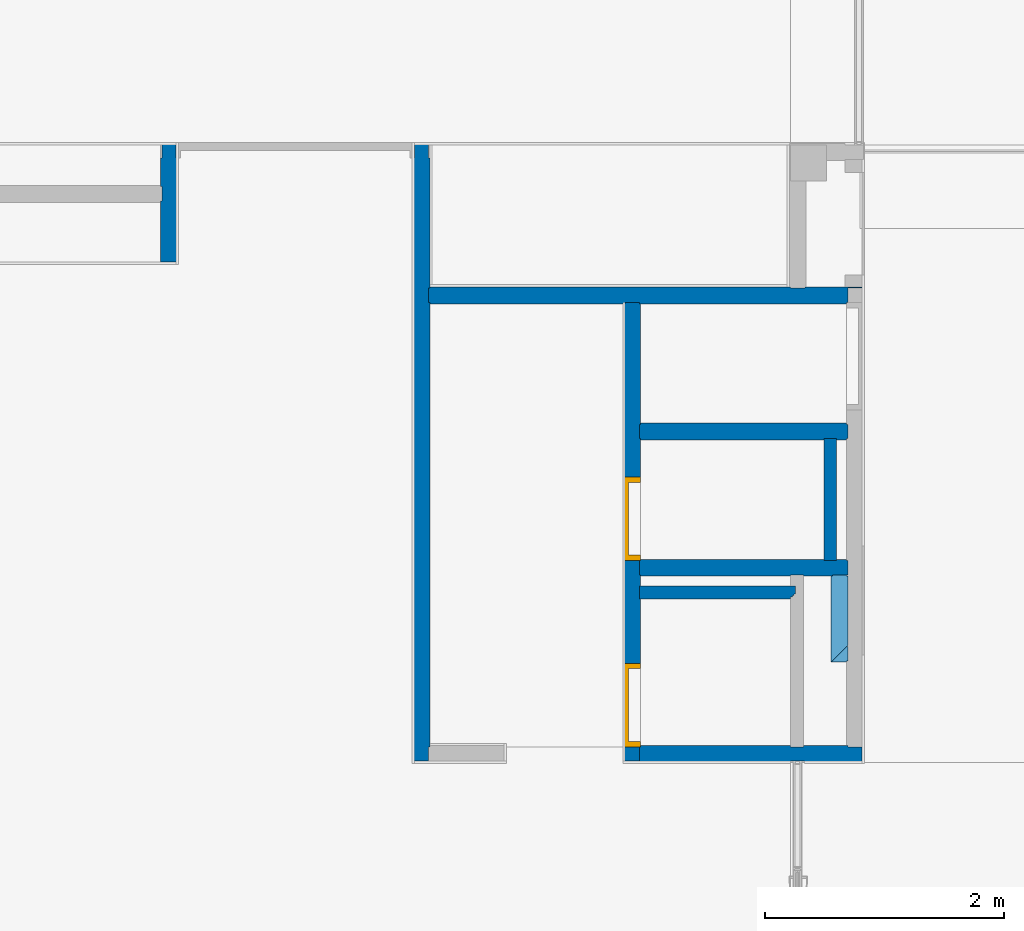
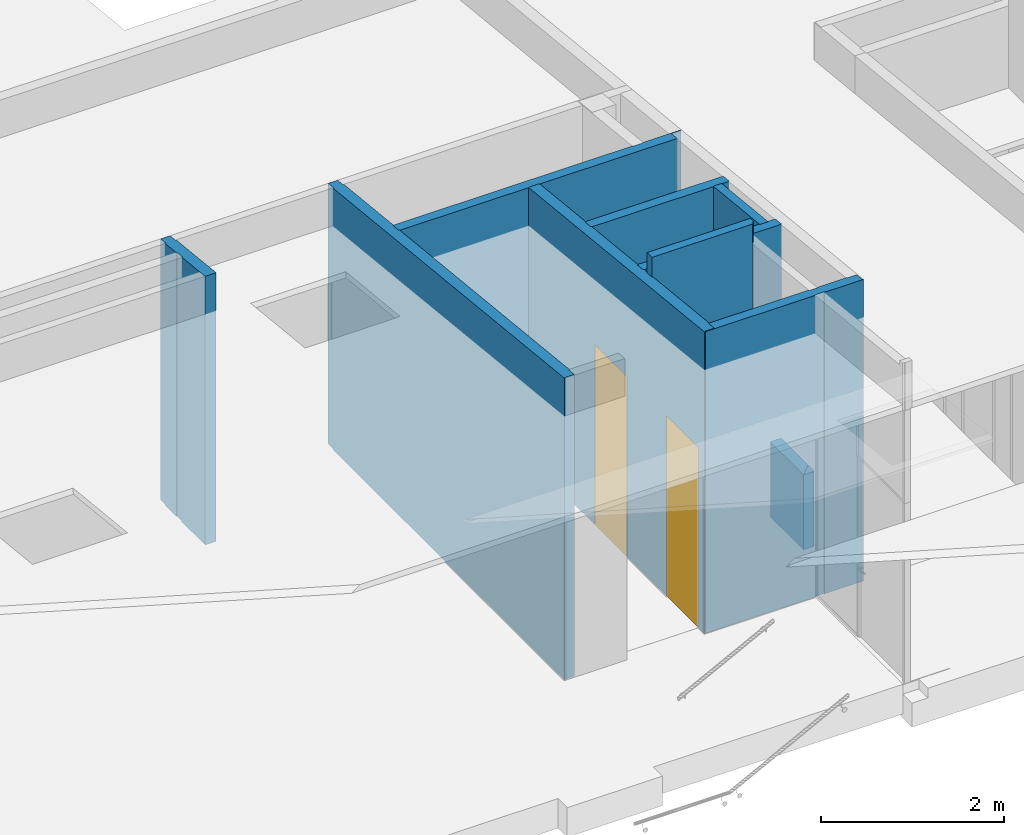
# One storey, part 26 of 43: 11 walls, 2 doors, 2 openings.
"""IFC2X3 building model written with IfcOpenShell, lengths in millimetres."""

import ifcopenshell
import ifcopenshell.guid

model = None  # the IFC model being written
_history = None  # IfcOwnerHistory: only IFC2X3 demands one
_inside = {}  # id of a spatial element -> (the spatial element, [elements in it])
_under = {}  # id of a project, library or spatial element -> (it, [spatial elements below it])
_declared = {}  # id of a project -> (the project, [libraries it declares])
_typed = {}  # id of a type object -> (the type object, [elements of that type])
_made_of = {}  # id of a material, layer set ... -> (it, [elements and type objects made of it])


def new_model(schema):
    """Start an empty IFC model of exactly this schema.

    Asked for "IFC4X3", IfcOpenShell would pick the latest addendum, in which some entities
    have other attributes; the version numbers below select the first issue.
    IFC2X3 requires an IfcOwnerHistory on every rooted entity: one is made here for all.
    """
    global model, _history
    if schema == "IFC4X3":
        model = ifcopenshell.file(schema_version=(4, 3, 0, 0))
    else:
        model = ifcopenshell.file(schema=schema)
    _inside.clear()
    _under.clear()
    _declared.clear()
    _typed.clear()
    _made_of.clear()
    _history = None
    if model.schema == "IFC2X3":
        org = make("IfcOrganization", Name="unknown")
        user = make(
            "IfcPersonAndOrganization",
            ThePerson=make("IfcPerson", FamilyName="unknown"),
            TheOrganization=org,
        )
        app = make(
            "IfcApplication",
            ApplicationDeveloper=org,
            Version="unknown",
            ApplicationFullName="unknown",
            ApplicationIdentifier="unknown",
        )
        _history = make(
            "IfcOwnerHistory",
            OwningUser=user,
            OwningApplication=app,
            ChangeAction="ADDED",
            CreationDate=0,
        )
    return model


def make(cls, **values):
    """One entity of the class cls with the attributes given. An attribute that is None is left unset."""
    return model.create_entity(
        cls, **{name: value for name, value in values.items() if value is not None}
    )


def entity(cls, *values):
    """Any entity or typed value of the class cls, its attributes in the order of the schema. None: left unset."""
    e = model.create_entity(cls)
    for i, value in enumerate(values):
        if value is not None:
            e[i] = value
    return e


def rooted(cls, **values):
    """An entity with a GlobalId (a new one), such as an element, a storey or a relation."""
    return make(cls, GlobalId=ifcopenshell.guid.new(), OwnerHistory=_history, **values)


def si_unit(unit_type, name, prefix=None):
    """IfcSIUnit, for example si_unit("LENGTHUNIT", "METRE", prefix="MILLI")."""
    return make("IfcSIUnit", UnitType=unit_type, Prefix=prefix, Name=name)


def converted_unit(unit_type, name, factor, base, dimensions=None, offset=None):
    """IfcConversionBasedUnit, such as the inch: factor (a typed value) times the base unit."""
    return make(
        "IfcConversionBasedUnit"
        if offset is None
        else "IfcConversionBasedUnitWithOffset",
        ConversionOffset=offset,
        Dimensions=None
        if dimensions is None
        else entity("IfcDimensionalExponents", *dimensions),
        UnitType=unit_type,
        Name=name,
        ConversionFactor=make(
            "IfcMeasureWithUnit", ValueComponent=factor, UnitComponent=base
        ),
    )


def derived_unit(unit_type, elements):
    """IfcDerivedUnit: a product of units, each with its exponent."""
    return make(
        "IfcDerivedUnit",
        Elements=[
            make("IfcDerivedUnitElement", Unit=unit, Exponent=power)
            for unit, power in elements
        ],
        UnitType=unit_type,
    )


def money_unit(currency):
    """IfcMonetaryUnit."""
    return make("IfcMonetaryUnit", Currency=currency)


def assignment(units):
    """IfcUnitAssignment: the units of a project."""
    return None if units is None else make("IfcUnitAssignment", Units=units)


def point(xyz):
    """IfcCartesianPoint."""
    return None if xyz is None else make("IfcCartesianPoint", Coordinates=xyz)


def direction(xyz):
    """IfcDirection."""
    return None if xyz is None else make("IfcDirection", DirectionRatios=xyz)


def frame(location, z_axis=None, x_axis=None):
    """IfcAxis2Placement3D, a coordinate frame: its origin and axes. An axis left out is left unset."""
    return make(
        "IfcAxis2Placement3D",
        Location=point(location),
        Axis=direction(z_axis),
        RefDirection=direction(x_axis),
    )


def origin_with_axes():
    """The frame at (0, 0, 0) with the z axis (0, 0, 1) and the x axis (1, 0, 0) written out."""
    return frame((0.0, 0.0, 0.0), z_axis=(0.0, 0.0, 1.0), x_axis=(1.0, 0.0, 0.0))


def place(relative_to, where):
    """IfcLocalPlacement: puts the frame where relative to a parent placement (None: the world)."""
    return make(
        "IfcLocalPlacement", PlacementRelTo=relative_to, RelativePlacement=where
    )


def context(
    kind, dimensions, precision=None, world=None, true_north=None, identifier=None
):
    """IfcGeometricRepresentationContext, for example the 3D "Model" context."""
    return make(
        "IfcGeometricRepresentationContext",
        ContextIdentifier=identifier,
        ContextType=kind,
        CoordinateSpaceDimension=dimensions,
        Precision=precision,
        WorldCoordinateSystem=world,
        TrueNorth=true_north,
    )


def subcontext(parent, identifier, kind, view, scale=None):
    """IfcGeometricRepresentationSubContext, for example "Body" below "Model"."""
    return make(
        "IfcGeometricRepresentationSubContext",
        ContextIdentifier=identifier,
        ContextType=kind,
        ParentContext=parent,
        TargetScale=scale,
        TargetView=view,
    )


def project(units=None, contexts=None):
    """IfcProject with its units and contexts."""
    return rooted(
        "IfcProject",
        Name="project",
        RepresentationContexts=contexts,
        UnitsInContext=assignment(units),
    )


def spatial(cls, under=None, at=None, **own):
    """A site, building, storey or space (cls), placed at a placement, below another one or the project."""
    s = rooted(cls, ObjectPlacement=at, **own)
    if under is not None:
        _under.setdefault(under.id(), (under, []))[1].append(s)
    return s


def faces_of(points, faces, orient=None, outer=None):
    """IfcFace entities. A face is a list of loops; a loop is a list of indices into points, from 0.

    orient and outer hold one flag for each loop. By default every Orientation is true, the
    first loop of a face is its IfcFaceOuterBound and the others are IfcFaceBound.
    """
    made = []
    for i, loops in enumerate(faces):
        bounds = []
        for j, loop in enumerate(loops):
            is_outer = j == 0 if outer is None else outer[i][j]
            bounds.append(
                make(
                    "IfcFaceOuterBound" if is_outer else "IfcFaceBound",
                    Bound=make("IfcPolyLoop", Polygon=[points[k] for k in loop]),
                    Orientation=True if orient is None else orient[i][j],
                )
            )
        made.append(make("IfcFace", Bounds=bounds))
    return made


def faceted_brep(points, faces, orient=None, outer=None, voids=None):
    """IfcFacetedBrep: a solid bounded by flat faces; with voids (closed shells), ...WithVoids."""
    shared = [point(p) for p in points]
    hull = make("IfcClosedShell", CfsFaces=faces_of(shared, faces, orient, outer))
    if voids is None:
        return make("IfcFacetedBrep", Outer=hull)
    return make(
        "IfcFacetedBrepWithVoids",
        Outer=hull,
        Voids=[
            make(cls, CfsFaces=faces_of(shared, fs, o, b)) for cls, fs, o, b in voids
        ],
    )


def shape(context_of_items, identifier, shape_type, items):
    """IfcShapeRepresentation: the items that make up one representation, for example the "Body"."""
    return make(
        "IfcShapeRepresentation",
        ContextOfItems=context_of_items,
        RepresentationIdentifier=identifier,
        RepresentationType=shape_type,
        Items=items,
    )


def material(Name=None, Category=None):
    """IfcMaterial."""
    return make("IfcMaterial", Name=Name, Category=Category)


def material_list(materials):
    """IfcMaterialList."""
    return make("IfcMaterialList", Materials=materials)


def made_of(thing, what):
    """Note that an element or type object is made of a material, layer set ...; save() writes the relation."""
    if what is not None:
        _made_of.setdefault(what.id(), (what, []))[1].append(thing)
    return thing


def type_object(cls, material=None, **own):
    """A type object (cls), such as IfcWallType, which elements share."""
    return made_of(rooted(cls, **own), material)


def element(
    cls,
    number,
    at=None,
    inside=None,
    cuts=None,
    type_object=None,
    material=None,
    context=None,
    identifier="Body",
    shape_type=None,
    held_by="IfcProductDefinitionShape",
    body=None,
    shapes=None,
    **own,
):
    """One element of the class cls, such as IfcWall. Its Tag is "e" and its number.

    at: its placement. inside: the storey or other place that contains it. cuts: it is an
    opening in that element (IfcRelVoidsElement). A single representation is given by context,
    identifier, shape_type and body (its items); several are given by shapes. held_by: the class
    of the entity that holds the representations. save() writes the other relations.
    """
    e = rooted(cls, Tag="e%d" % number, ObjectPlacement=at, **own)
    if body is not None:
        shapes = [shape(context, identifier, shape_type, body)]
    if shapes is not None:
        e.Representation = make(held_by, Representations=shapes)
    if inside is not None:
        _inside.setdefault(inside.id(), (inside, []))[1].append(e)
    if cuts is not None:
        rooted(
            "IfcRelVoidsElement", RelatingBuildingElement=cuts, RelatedOpeningElement=e
        )
    if type_object is not None:
        _typed.setdefault(type_object.id(), (type_object, []))[1].append(e)
    return made_of(e, material)


def fill(opening, filler):
    """IfcRelFillsElement: the door or window that sits in an opening."""
    return rooted(
        "IfcRelFillsElement",
        RelatingOpeningElement=opening,
        RelatedBuildingElement=filler,
    )


def aggregate(whole, parts):
    """IfcRelAggregates: a whole, such as a stair, and the parts it consists of."""
    return rooted("IfcRelAggregates", RelatingObject=whole, RelatedObjects=parts)


def save(model, path):
    """Write the relations noted so far, then the file.

    IfcRelAggregates (storeys below a building ...), IfcRelContainedInSpatialStructure (elements
    in a storey), IfcRelDefinesByType, IfcRelAssociatesMaterial and IfcRelDeclares: one each for
    every whole, place, type object, material and project.
    """
    for whole, parts in _under.values():
        aggregate(whole, parts)
    for where, things in _inside.values():
        rooted(
            "IfcRelContainedInSpatialStructure",
            RelatedElements=things,
            RelatingStructure=where,
        )
    for kind, things in _typed.values():
        rooted("IfcRelDefinesByType", RelatedObjects=things, RelatingType=kind)
    for what, things in _made_of.values():
        rooted("IfcRelAssociatesMaterial", RelatedObjects=things, RelatingMaterial=what)
    for by, libraries in _declared.values():
        rooted("IfcRelDeclares", RelatingContext=by, RelatedDefinitions=libraries)
    model.write(path)


model = new_model("IFC2X3")

# Units and contexts
model_context = context("Model", 3, precision=0.01, world=origin_with_axes(), true_north=direction((0.0, 1.0)))
body_context = subcontext(model_context, "Body", "Model", "MODEL_VIEW")
ifc_project = project(units=[si_unit("LENGTHUNIT", "METRE", prefix="MILLI"), si_unit("AREAUNIT", "SQUARE_METRE"), si_unit("VOLUMEUNIT", "CUBIC_METRE"), converted_unit("PLANEANGLEUNIT", "DEGREE", entity("IfcPlaneAngleMeasure", 0.0174532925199), si_unit("PLANEANGLEUNIT", "RADIAN"), dimensions=[0, 0, 0, 0, 0, 0, 0]), si_unit("SOLIDANGLEUNIT", "STERADIAN"), money_unit("EUR"), converted_unit("TIMEUNIT", "Year", entity("IfcTimeMeasure", 31556926.0), si_unit("TIMEUNIT", "SECOND"), dimensions=[0, 0, 1, 0, 0, 0, 0]), si_unit("MASSUNIT", "GRAM", prefix="KILO"), si_unit("THERMODYNAMICTEMPERATUREUNIT", "DEGREE_CELSIUS"), si_unit("LUMINOUSINTENSITYUNIT", "LUMEN"), si_unit("ENERGYUNIT", "JOULE", prefix="MEGA"), derived_unit("THERMALCONDUCTANCEUNIT", [(si_unit("POWERUNIT", "WATT"), 1), (si_unit("LENGTHUNIT", "METRE"), -1), (si_unit("THERMODYNAMICTEMPERATUREUNIT", "KELVIN"), -1)]), derived_unit("SPECIFICHEATCAPACITYUNIT", [(si_unit("ENERGYUNIT", "JOULE"), 1), (si_unit("MASSUNIT", "GRAM", prefix="KILO"), -1), (si_unit("THERMODYNAMICTEMPERATUREUNIT", "KELVIN"), -1)]), derived_unit("MASSDENSITYUNIT", [(si_unit("MASSUNIT", "GRAM", prefix="KILO"), 1), (si_unit("VOLUMEUNIT", "CUBIC_METRE"), -1)])], contexts=[model_context])

# Site, building, storey
site_placement = place(None, origin_with_axes())
site = spatial("IfcSite", under=ifc_project, at=site_placement, Name="L.Koidula tn 11b", CompositionType="ELEMENT")
building_placement = place(site_placement, origin_with_axes())
building = spatial("IfcBuilding", under=site, at=building_placement, Name="Rakvere Riigigümnaasium", CompositionType="ELEMENT")
storey_placement = place(building_placement, frame((0.0, 0.0, 6665.0), z_axis=(0.0, 0.0, 1.0), x_axis=(1.0, 0.0, 0.0)))
storey = spatial("IfcBuildingStorey", under=building, at=storey_placement, Name="3.korrus +6,66", CompositionType="ELEMENT", Elevation=6665.0)

# Wall, openings, doors
ifc_material_1 = material(Name="Krohv")
ifc_material_2 = material(Name="Silikaat plokk")
ifc_material_list_1 = material_list([ifc_material_1, ifc_material_2, ifc_material_1])
wall_type_1 = type_object("IfcWallType", Name="SS-05 140", PredefinedType="NOTDEFINED")
wall_1_placement = place(storey_placement, frame((45735.0034893, 23200.4555472, 0.0), z_axis=(0.0, 0.0, 1.0), x_axis=(0.0, -1.0, 0.0)))
wall_1 = element("IfcWall", 1, at=wall_1_placement, inside=storey, type_object=wall_type_1, material=ifc_material_list_1, Name="Sisesein", context=body_context, shape_type="Brep", body=[
    faceted_brep([(2600.51583998, 0.0, 0.0), (2600.51583998, 6.80496015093e-06, 3879.22136701), (2600.51583998, 10.0000035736, 3879.22121521), (2600.51583998, 10.0, 0.0), (3840.01583998, 0.0, 2400.0), (3840.01583998, 7.20982029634e-06, 4009.49806526), (3140.01583998, 5.24521368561e-05, 0.0), (3140.01583998, 7.26639370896e-06, 2400.0), (3840.01583998, 10.000003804, 4009.49791347), (3840.01583998, 10.0, 0.0), (3830.01583521, 10.0000047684, 0.0), (3830.01583521, 10.0000047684, 2400.0), (3140.01583998, 10.0000047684, 2400.0), (3140.01583998, 10.0000047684, 0.0), (3840.01583998, 0.0, 0.0)], [[[0, 1, 2, 3]], [[4, 5, 1, 0, 6, 7]], [[5, 8, 2, 1]], [[3, 2, 8, 9, 10, 11, 12, 13]], [[0, 3, 13, 6]], [[9, 8, 5, 4, 14]], [[7, 6, 13, 12]], [[4, 7, 12, 11]], [[10, 9, 14]], [[14, 4, 11, 10]]]),
    faceted_brep([(2400.01583998, 0.0, 0.0), (2400.01583998, 7.14433667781e-06, 3858.14796806), (2400.01583998, 10.0000037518, 3858.14781626), (2400.01583998, 10.0, 0.0), (2494.01583998, 0.0, 0.0), (2494.01583998, 6.78532074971e-06, 3868.02776607), (2494.01583998, 10.0000035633, 3868.02761427), (2494.01583998, 10.0, 0.0)], [[[0, 1, 2, 3]], [[4, 5, 1, 0]], [[5, 6, 2, 1]], [[3, 2, 6, 7]], [[4, 0, 3, 7]], [[7, 6, 5, 4]]]),
    faceted_brep([(1260.00000742, 0.0, 0.0), (1260.00000742, 7.23822779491e-06, 3738.32747704), (1260.00000742, 10.0000038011, 3738.32732524), (1260.00000742, 10.0, 0.0), (2280.01583998, 4.44421033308e-06, 2400.0), (2280.01583998, 7.12098113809e-06, 3845.53545996), (1580.01583998, 0.0, 0.0), (1580.01583998, 7.26639370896e-06, 2400.0), (2280.01583998, 10.0000037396, 3845.53530816), (2280.01583998, 10.0000023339, 2400.0), (1580.01583998, 10.0, 2400.0), (1580.01583998, 10.0, 0.0)], [[[0, 1, 2, 3]], [[4, 5, 1, 0, 6, 7]], [[5, 8, 2, 1]], [[3, 2, 8, 9, 10, 11]], [[6, 0, 3, 11]], [[9, 8, 5, 4]], [[10, 7, 6, 11]], [[9, 4, 7, 10]]]),
    faceted_brep([(130.0, 0.0, 0.0), (130.0, 7.10841874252e-06, 3619.55969164), (130.0, 10.000003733, 3619.55953985), (130.0, 10.0, 0.0), (1140.00000742, 0.0, 0.0), (1140.00000742, 7.21380644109e-06, 3725.71496894), (1140.00000742, 10.0000037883, 3725.71481714), (1140.00000742, 10.0, 0.0)], [[[0, 1, 2, 3]], [[4, 5, 1, 0]], [[5, 6, 2, 1]], [[3, 2, 6, 7]], [[3, 7, 4, 0]], [[7, 6, 5, 4]]]),
    faceted_brep([(120.0, -120.0, 0.0), (120.0, -120.000003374, 3618.51047085), (120.0, 7.10635106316e-06, 3618.5086493), (120.0, 0.0, 0.0), (3960.01583998, -120.0, 0.0), (3960.01583998, -120.000001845, 4022.11239491), (1580.01583998, -120.0, 0.0), (1580.01583998, -120.000027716, 2400.0), (2280.01583998, -120.000027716, 2400.0), (2280.01583998, -120.0, 0.0), (3140.01583998, -120.000047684, 0.0), (3140.01583998, -120.000027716, 2400.0), (3840.01583998, -120.000027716, 2400.0), (3840.01583998, -120.000047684, 0.0), (3960.01583998, 3.88646981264e-06, 4022.11057336), (3960.01583998, 0.0, 0.0), (3840.01583998, 0.0, 0.0), (3840.01583998, 0.0, 2400.0), (3140.01583998, 0.0, 2400.0), (3140.01583998, 5.24521368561e-05, 0.0), (2280.01583998, 0.0, 0.0), (2280.01583998, 0.0, 2400.0), (1580.01583998, 0.0, 2400.0), (1580.01583998, 0.0, 0.0)], [[[0, 1, 2, 3]], [[4, 5, 1, 0, 6, 7, 8, 9, 10, 11, 12, 13]], [[5, 14, 2, 1]], [[3, 2, 14, 15, 16, 17, 18, 19, 20, 21, 22, 23]], [[6, 0, 3, 23]], [[15, 14, 5, 4]], [[22, 7, 6, 23]], [[21, 8, 7, 22]], [[20, 9, 8, 21]], [[9, 20, 19, 10]], [[11, 10, 19, 18]], [[12, 11, 18, 17]], [[12, 17, 16, 13]], [[15, 4, 13, 16]]]),
    faceted_brep([(130.0, -130.0, 0.0), (130.0, -130.0, 3619.56166499), (130.0, -120.000003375, 3619.56151319), (130.0, -120.0, 0.0), (3970.01584032, -130.0, 4022.12780187), (3960.16098323, -130.0, 4022.12780187), (1580.01583998, -130.0, 0.0), (1580.01583998, -130.0, 2400.0), (2280.01583998, -130.0, 2400.0), (2280.01583998, -130.0, 0.0), (3140.01583998, -130.0, 0.0), (3140.01583998, -130.0, 2400.0), (3840.01583998, -130.0, 2400.0), (3840.01583998, -130.0, 0.0), (3970.01584032, -130.0, 0.0), (3960.16242746, -120.00000345, 4022.12780187), (3970.01584032, -120.00000345, 4022.12780187), (3970.01584032, -120.0, 0.0), (3840.01583998, -120.000047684, 0.0), (3840.01583998, -120.0, 2400.0), (3140.01583998, -120.0, 2400.0), (3140.01583998, -120.000047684, 0.0), (2280.01583998, -120.0, 0.0), (2280.01583998, -120.0, 2400.0), (1580.01583998, -120.0, 2400.0), (1580.01583998, -120.0, 0.0)], [[[0, 1, 2, 3]], [[4, 5, 1, 0, 6, 7, 8, 9, 10, 11, 12, 13, 14]], [[5, 15, 2, 1]], [[3, 2, 15, 16, 17, 18, 19, 20, 21, 22, 23, 24, 25]], [[6, 0, 3, 25]], [[16, 15, 5, 4]], [[24, 7, 6, 25]], [[23, 8, 7, 24]], [[22, 9, 8, 23]], [[9, 22, 21, 10]], [[11, 10, 21, 20]], [[12, 11, 20, 19]], [[13, 12, 19, 18]], [[17, 14, 13, 18]], [[16, 4, 14, 17]]]),
])
opening_1_placement = place(wall_1_placement, frame((3490.01583998, 0.0, 0.0), z_axis=(0.0, 0.0, 1.0), x_axis=(1.0, 0.0, 0.0)))
opening_1 = element("IfcOpeningElement", 2, at=opening_1_placement, cuts=wall_1, Name="SU-062", context=body_context, shape_type="Brep", body=[
    faceted_brep([(-350.0, -140.0, 0.0), (-350.0, -140.0, 2400.0), (-350.0, 280.0, 2400.0), (-350.0, 280.0, 0.0), (350.0, -140.0, 0.0), (350.0, -140.0, 2400.0), (350.0, 280.0, 2400.0), (350.0, 280.0, 0.0)], [[[0, 1, 2, 3]], [[0, 4, 5, 1]], [[1, 5, 6, 2]], [[3, 2, 6, 7]], [[4, 0, 3, 7]], [[5, 4, 7, 6]]]),
])
opening_2_placement = place(wall_1_placement, frame((1930.01583998, 0.0, 0.0), z_axis=(0.0, 0.0, 1.0), x_axis=(1.0, 0.0, 0.0)))
opening_2 = element("IfcOpeningElement", 3, at=opening_2_placement, cuts=wall_1, Name="SU-063", context=body_context, shape_type="Brep", body=[
    faceted_brep([(-350.0, -140.0, 0.0), (-350.0, -140.0, 2400.0), (-350.0, 280.0, 2400.0), (-350.0, 280.0, 0.0), (350.0, -140.0, 0.0), (350.0, -140.0, 2400.0), (350.0, 280.0, 2400.0), (350.0, 280.0, 0.0)], [[[0, 1, 2, 3]], [[0, 4, 5, 1]], [[1, 5, 6, 2]], [[3, 2, 6, 7]], [[4, 0, 3, 7]], [[5, 4, 7, 6]]]),
])
door_style = type_object("IfcDoorStyle", Name="Door 23", ConstructionType="NOTDEFINED", OperationType="SINGLE_SWING_RIGHT", ParameterTakesPrecedence=False, Sizeable=False)
door_1_placement = place(opening_1_placement, frame((350.0, 0.0, 0.0), z_axis=(0.0, 0.0, 1.0), x_axis=(-1.0, 0.0, 0.0)))
door_1 = element("IfcDoor", 4, at=door_1_placement, inside=storey, type_object=door_style, Name="SU-062", ObjectType="DOOR", OverallHeight=2400.0, OverallWidth=700.0, context=body_context, shape_type="Brep", body=[
    faceted_brep([(45.0, -10.0, 2355.0), (45.0, -10.0, 0.0), (45.0, 90.0, 0.0), (45.0, 90.0, 2355.0), (0.0, -10.0, 2355.0), (0.0, -10.0, 0.0), (0.0, 130.0, 0.0), (33.0, 130.0, 0.0), (33.0, 90.0, 0.0), (33.0, 90.0, 2355.0), (33.0, 130.0, 2355.0), (0.0, 130.0, 2355.0)], [[[0, 1, 2, 3]], [[4, 5, 1, 0]], [[6, 7, 8, 2, 1, 5]], [[2, 8, 9, 3]], [[0, 3, 9, 10, 11, 4]], [[4, 11, 6, 5]], [[6, 11, 10, 7]], [[8, 7, 10, 9]]]),
    faceted_brep([(700.0, 130.0, 2355.0), (667.0, 130.0, 2355.0), (667.0, 90.0, 2355.0), (655.0, 90.0, 2355.0), (655.0, -10.0, 2355.0), (700.0, -10.0, 2355.0), (700.0, 130.0, 0.0), (667.0, 130.0, 0.0), (667.0, 90.0, 0.0), (655.0, 90.0, 0.0), (655.0, -10.0, 0.0), (700.0, -10.0, 0.0)], [[[0, 1, 2, 3, 4, 5]], [[0, 6, 7, 1]], [[7, 8, 2, 1]], [[8, 9, 3, 2]], [[10, 4, 3, 9]], [[10, 11, 5, 4]], [[11, 6, 0, 5]], [[10, 9, 8, 7, 6, 11]]]),
    faceted_brep([(667.0, 130.0, 2355.0), (667.0, 130.0, 2367.0), (33.0, 130.0, 2367.0), (33.0, 130.0, 2355.0), (0.0, 130.0, 2355.0), (0.0, 130.0, 2400.0), (700.0, 130.0, 2400.0), (700.0, 130.0, 2355.0), (667.0, 90.0, 2355.0), (667.0, 90.0, 2367.0), (33.0, 90.0, 2367.0), (33.0, 90.0, 2355.0), (45.0, 90.0, 2355.0), (45.0, -10.0, 2355.0), (0.0, -10.0, 2355.0), (0.0, -10.0, 2400.0), (700.0, -10.0, 2400.0), (700.0, -10.0, 2355.0), (655.0, -10.0, 2355.0), (655.0, 90.0, 2355.0)], [[[0, 1, 2, 3, 4, 5, 6, 7]], [[8, 9, 1, 0]], [[9, 10, 2, 1]], [[10, 11, 3, 2]], [[4, 3, 11, 12, 13, 14]], [[15, 5, 4, 14]], [[16, 6, 5, 15]], [[17, 7, 6, 16]], [[18, 19, 8, 0, 7, 17]], [[10, 9, 8, 19, 12, 11]], [[18, 13, 12, 19]], [[14, 13, 18, 17, 16, 15]]]),
    faceted_brep([(33.0, 90.0, 0.0), (33.0, 130.0, 0.0), (667.0, 130.0, 0.0), (667.0, 90.0, 0.0), (33.0, 90.0, 2367.0), (33.0, 130.0, 2367.0), (667.0, 130.0, 2367.0), (667.0, 90.0, 2367.0)], [[[0, 1, 2, 3]], [[4, 5, 1, 0]], [[5, 6, 2, 1]], [[3, 2, 6, 7]], [[4, 0, 3, 7]], [[7, 6, 5, 4]]]),
])
fill(opening_1, door_1)
door_2_placement = place(opening_2_placement, frame((350.0, 0.0, 0.0), z_axis=(0.0, 0.0, 1.0), x_axis=(-1.0, 0.0, 0.0)))
door_2 = element("IfcDoor", 5, at=door_2_placement, inside=storey, type_object=door_style, Name="SU-063", ObjectType="DOOR", OverallHeight=2400.0, OverallWidth=700.0, context=body_context, shape_type="Brep", body=[
    faceted_brep([(45.0, -10.0, 2355.0), (45.0, -10.0, 0.0), (45.0, 90.0, 0.0), (45.0, 90.0, 2355.0), (0.0, -10.0, 2355.0), (0.0, -10.0, 0.0), (0.0, 130.0, 0.0), (33.0, 130.0, 0.0), (33.0, 90.0, 0.0), (33.0, 90.0, 2355.0), (33.0, 130.0, 2355.0), (0.0, 130.0, 2355.0)], [[[0, 1, 2, 3]], [[4, 5, 1, 0]], [[6, 7, 8, 2, 1, 5]], [[2, 8, 9, 3]], [[0, 3, 9, 10, 11, 4]], [[4, 11, 6, 5]], [[6, 11, 10, 7]], [[8, 7, 10, 9]]]),
    faceted_brep([(700.0, 130.0, 2355.0), (667.0, 130.0, 2355.0), (667.0, 90.0, 2355.0), (655.0, 90.0, 2355.0), (655.0, -10.0, 2355.0), (700.0, -10.0, 2355.0), (700.0, 130.0, 0.0), (667.0, 130.0, 0.0), (667.0, 90.0, 0.0), (655.0, 90.0, 0.0), (655.0, -10.0, 0.0), (700.0, -10.0, 0.0)], [[[0, 1, 2, 3, 4, 5]], [[0, 6, 7, 1]], [[7, 8, 2, 1]], [[8, 9, 3, 2]], [[10, 4, 3, 9]], [[10, 11, 5, 4]], [[11, 6, 0, 5]], [[10, 9, 8, 7, 6, 11]]]),
    faceted_brep([(667.0, 130.0, 2355.0), (667.0, 130.0, 2367.0), (33.0, 130.0, 2367.0), (33.0, 130.0, 2355.0), (0.0, 130.0, 2355.0), (0.0, 130.0, 2400.0), (700.0, 130.0, 2400.0), (700.0, 130.0, 2355.0), (667.0, 90.0, 2355.0), (667.0, 90.0, 2367.0), (33.0, 90.0, 2367.0), (33.0, 90.0, 2355.0), (45.0, 90.0, 2355.0), (45.0, -10.0, 2355.0), (0.0, -10.0, 2355.0), (0.0, -10.0, 2400.0), (700.0, -10.0, 2400.0), (700.0, -10.0, 2355.0), (655.0, -10.0, 2355.0), (655.0, 90.0, 2355.0)], [[[0, 1, 2, 3, 4, 5, 6, 7]], [[8, 9, 1, 0]], [[9, 10, 2, 1]], [[10, 11, 3, 2]], [[4, 3, 11, 12, 13, 14]], [[15, 5, 4, 14]], [[16, 6, 5, 15]], [[17, 7, 6, 16]], [[18, 19, 8, 0, 7, 17]], [[10, 9, 8, 19, 12, 11]], [[18, 13, 12, 19]], [[14, 13, 18, 17, 16, 15]]]),
    faceted_brep([(33.0, 90.0, 0.0), (33.0, 130.0, 0.0), (667.0, 130.0, 0.0), (667.0, 90.0, 0.0), (33.0, 90.0, 2367.0), (33.0, 130.0, 2367.0), (667.0, 130.0, 2367.0), (667.0, 90.0, 2367.0)], [[[0, 1, 2, 3]], [[4, 5, 1, 0]], [[5, 6, 2, 1]], [[3, 2, 6, 7]], [[4, 0, 3, 7]], [[7, 6, 5, 4]]]),
])
fill(opening_2, door_2)

# Walls
wall_2_placement = place(storey_placement, frame((47599.9999955, 20800.4397072, 0.0), z_axis=(0.0, 0.0, 1.0), x_axis=(-1.0, 0.0, 0.0)))
element("IfcWall", 6, at=wall_2_placement, inside=storey, type_object=wall_type_1, material=ifc_material_list_1, Name="Sisesein", context=body_context, shape_type="Brep", body=[
    faceted_brep([(493.49860243, 0.0, 0.0), (493.49860243, 0.0, 3858.12714933), (130.0, 0.0, 3858.12163158), (130.0, 0.0, 1000.0), (250.0, 0.0, 1000.0), (250.0, 0.0, 0.0), (493.49860243, 10.0, 0.0), (493.49860243, 10.0, 3859.17819167), (130.0, 10.0, 3859.17267392), (130.0, 10.0, 1000.0), (250.0, 10.0, 1000.0), (250.0, 10.0, 0.0)], [[[0, 1, 2, 3, 4, 5]], [[6, 7, 1, 0]], [[7, 8, 2, 1]], [[3, 2, 8, 9]], [[3, 9, 10, 4]], [[4, 10, 11, 5]], [[11, 6, 0, 5]], [[9, 8, 7, 6, 11, 10]]]),
    faceted_brep([(1854.99650622, 0.0, 0.0), (1854.99650622, 0.0, 3858.14781626), (599.99860243, 0.0, 3858.12876595), (599.99860243, 0.0, 0.0), (1854.99650622, 10.0, 0.0), (1854.99650622, 10.0, 3859.1988586), (599.99860243, 10.0, 3859.17980829), (599.99860243, 10.0, 0.0)], [[[0, 1, 2, 3]], [[4, 5, 1, 0]], [[5, 6, 2, 1]], [[3, 2, 6, 7]], [[3, 7, 4, 0]], [[7, 6, 5, 4]]]),
    faceted_brep([(1864.99650622, -120.0, 0.0), (1864.99650622, -120.0, 3845.53545996), (120.0, -120.0, 3845.50897168), (120.0, -120.0, 0.0), (1864.99650622, 0.0, 0.0), (1864.99650622, 0.0, 3858.14796806), (120.0, 0.0, 3858.12147979), (120.0, 0.0, 0.0)], [[[0, 1, 2, 3]], [[4, 5, 1, 0]], [[5, 6, 2, 1]], [[3, 2, 6, 7]], [[3, 7, 4, 0]], [[7, 6, 5, 4]]]),
    faceted_brep([(1854.99650622, -130.0, 0.0), (1854.99650622, -130.0, 3844.48426582), (320.5, -130.0, 3844.46097284), (320.5, -130.0, 0.0), (1854.99650622, -120.0, 0.0), (1854.99650622, -120.0, 3845.53530816), (320.5, -120.0, 3845.51201519), (320.5, -120.0, 0.0)], [[[0, 1, 2, 3]], [[4, 5, 1, 0]], [[5, 6, 2, 1]], [[3, 2, 6, 7]], [[3, 7, 4, 0]], [[7, 6, 5, 4]]]),
    faceted_brep([(214.0, -130.0, 0.0), (214.0, -130.0, 3844.45935622), (130.0, -130.0, 3844.45808114), (130.0, -130.0, 0.0), (214.0, -120.0, 0.0), (214.0, -120.0, 3845.51039856), (130.0, -120.0, 3845.50912348), (130.0, -120.0, 0.0)], [[[0, 1, 2, 3]], [[4, 5, 1, 0]], [[5, 6, 2, 1]], [[3, 2, 6, 7]], [[3, 7, 4, 0]], [[7, 6, 5, 4]]]),
])
wall_3_placement = place(storey_placement, frame((47599.9999955, 23200.4555472, 0.0), z_axis=(0.0, 0.0, 1.0), x_axis=(-1.0, 0.0, 0.0)))
element("IfcWall", 7, at=wall_3_placement, inside=storey, type_object=wall_type_1, material=ifc_material_list_1, Name="Sisesein", context=body_context, shape_type="Brep", body=[
    faceted_brep([(1864.99650622, 120.0, 3618.5086493), (130.0, 120.0, 3618.48231283), (130.0, 120.0, 0.0), (1864.99650622, 120.0, 0.0), (130.0, 130.0, 3619.53335517), (1864.99650622, 130.0, 3619.55969164), (130.0, 130.0, 0.0), (1864.99650622, 130.0, 0.0)], [[[0, 1, 2, 3]], [[4, 1, 0, 5]], [[1, 4, 6, 2]], [[6, 7, 3, 2]], [[5, 0, 3, 7]], [[4, 5, 7, 6]]]),
    faceted_brep([(3619.99999907, 120.0, 3618.53528948), (1984.99650622, 120.0, 3618.51047085), (1984.99650622, 120.0, 0.0), (3619.99999907, 120.0, 0.0), (1984.99650622, 130.0, 3619.56151319), (3619.99999907, 130.0, 3619.58633182), (1984.99650622, 130.0, 0.0), (3619.99999907, 130.0, 0.0)], [[[0, 1, 2, 3]], [[4, 1, 0, 5]], [[1, 4, 6, 2]], [[7, 3, 2, 6]], [[5, 0, 3, 7]], [[4, 5, 7, 6]]]),
    faceted_brep([(3629.99999907, 0.0, 3605.92293317), (120.0, 0.0, 3605.86965293), (120.0, 0.0, 0.0), (3629.99999907, 0.0, 0.0), (120.0, 120.0, 3618.48216103), (3629.99999907, 120.0, 3618.53544127), (120.0, 120.0, 0.0), (3629.99999907, 120.0, 0.0)], [[[0, 1, 2, 3]], [[4, 1, 0, 5]], [[1, 4, 6, 2]], [[6, 7, 3, 2]], [[5, 0, 3, 7]], [[4, 5, 7, 6]]]),
    faceted_brep([(479.99860243, -10.0, 3604.82407521), (0.0, -10.0, 3604.81678904), (0.0, -10.0, 0.0), (479.99860243, -10.0, 0.0), (0.0, 0.0, 3605.86783138), (479.99860243, 0.0, 3605.87511755), (0.0, 0.0, 0.0), (479.99860243, 0.0, 0.0)], [[[0, 1, 2, 3]], [[4, 1, 0, 5]], [[1, 4, 6, 2]], [[7, 3, 2, 6]], [[5, 0, 3, 7]], [[4, 5, 7, 6]]]),
    faceted_brep([(3619.99999907, -10.0, 3604.87173903), (599.99860243, -10.0, 3604.82589675), (599.99860243, -10.0, 0.0), (3619.99999907, -10.0, 0.0), (599.99860243, 0.0, 3605.8769391), (3619.99999907, 0.0, 3605.92278138), (599.99860243, 0.0, 0.0), (3619.99999907, 0.0, 0.0)], [[[0, 1, 2, 3]], [[4, 1, 0, 5]], [[1, 4, 6, 2]], [[7, 3, 2, 6]], [[5, 0, 3, 7]], [[4, 5, 7, 6]]]),
])
wall_4_placement = place(storey_placement, frame((47599.9999955, 19240.4397072, 0.0), z_axis=(0.0, 0.0, 1.0), x_axis=(-1.0, 0.0, 0.0)))
element("IfcWall", 8, at=wall_4_placement, inside=storey, type_object=wall_type_1, material=ifc_material_list_1, Name="Sisesein", context=body_context, shape_type="Brep", body=[
    faceted_brep([(482.500002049, 0.0, 0.0), (482.500002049, 0.0, 4022.08958768), (-10.0, 0.0, 4022.08211175), (-10.0, 0.0, 0.0), (482.500002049, 10.0, 4022.12780187), (482.500002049, 0.363583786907, 4022.12780187), (482.500002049, 10.0, 0.0), (-10.0, 0.434712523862, 4022.12780187), (-10.0, 10.0, 4022.12780187), (-10.0, 10.0, 0.0)], [[[0, 1, 2, 3]], [[4, 5, 1, 0, 6]], [[5, 7, 2, 1]], [[3, 2, 7, 8, 9]], [[9, 6, 0, 3]], [[8, 7, 5, 4]], [[8, 4, 6, 9]]]),
    faceted_brep([(1984.99650622, 0.0, 0.0), (1984.99650622, 0.0, 4022.11239491), (600.000002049, 0.0, 4022.09137128), (600.000002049, 0.0, 0.0), (1984.99650622, 10.0, 4022.12780187), (1984.99650622, 0.146587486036, 4022.12780187), (1984.99650622, 10.0, 0.0), (600.000002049, 0.346613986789, 4022.12780187), (600.000002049, 10.0, 4022.12780187), (600.000002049, 10.0, 0.0)], [[[0, 1, 2, 3]], [[4, 5, 1, 0, 6]], [[5, 7, 2, 1]], [[3, 2, 7, 8, 9]], [[9, 6, 0, 3]], [[8, 7, 5, 4]], [[8, 4, 6, 9]]]),
    faceted_brep([(1864.99650622, -120.0, 0.0), (1864.99650622, -120.0, 4009.49806526), (0.0, -120.0, 4009.46975544), (0.0, -120.0, 0.0), (1864.99650622, 0.0, 0.0), (1864.99650622, 0.0, 4022.11057336), (0.0, 0.0, 4022.08226354), (0.0, 0.0, 0.0)], [[[0, 1, 2, 3]], [[4, 5, 1, 0]], [[5, 6, 2, 1]], [[3, 2, 6, 7]], [[0, 3, 7, 4]], [[7, 6, 5, 4]]]),
    faceted_brep([(1854.99650622, -130.0, 0.0), (1854.99650622, -130.0, 4008.44687112), (599.998582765, -130.0, 4008.42782081), (599.99860243, -130.0, 0.0), (1854.99650622, -120.0, 0.0), (1854.99650622, -120.0, 4009.49791347), (599.99858276, -120.0, 4009.47886315), (599.99860243, -120.0, 0.0)], [[[0, 1, 2, 3]], [[4, 5, 1, 0]], [[5, 6, 2, 1]], [[3, 2, 6, 7]], [[7, 4, 0, 3]], [[7, 6, 5, 4]]]),
    faceted_brep([(493.49860243, -130.0, 0.0), (493.49860243, -130.0, 4008.42620419), (120.0, -130.0, 4008.42053465), (120.0, -130.0, 0.0), (493.49860243, -120.0, 0.0), (493.49860243, -120.0, 4009.47724653), (120.0, -120.0, 4009.47157699), (120.0, -120.0, 0.0)], [[[0, 1, 2, 3]], [[4, 5, 1, 0]], [[5, 6, 2, 1]], [[3, 2, 6, 7]], [[3, 7, 4, 0]], [[7, 6, 5, 4]]]),
])
wall_5_placement = place(storey_placement, frame((43849.9999965, 19240.4397072, 0.0), z_axis=(0.0, 0.0, 1.0), x_axis=(0.0, 1.0, 0.0)))
element("IfcWall", 9, at=wall_5_placement, inside=storey, type_object=wall_type_1, material=ifc_material_list_1, Name="Sisesein", context=body_context, shape_type="Brep", body=[
    faceted_brep([(5052.51583998, 9.99999999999, 0.0), (5052.51583998, 10.0000140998, 3491.09853068), (5052.51583998, 3.52495277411e-06, 3491.09837889), (5052.51583998, 0.0, 0.0), (0.0, 10.0000038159, 4022.12780187), (0.0, 10.0000038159, 4022.13933867), (-10.0000003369, 10.0, 0.0), (-10.0000003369, 10.0000038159, 4022.12780187), (0.0, 7.26639370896e-06, 4022.13918688), (0.0, 7.26639370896e-06, 4022.12780187), (-10.0000003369, 7.26639370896e-06, 4022.12780187), (-10.0000003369, 0.0, 0.0)], [[[0, 1, 2, 3]], [[4, 5, 1, 0, 6, 7]], [[5, 8, 2, 1]], [[3, 2, 8, 9, 10, 11]], [[11, 6, 0, 3]], [[9, 8, 5, 4]], [[7, 6, 11, 10]], [[10, 9, 4, 7]]]),
    faceted_brep([(5170.01583998, 0.0, 0.0), (5170.01583998, 2.13691464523e-06, 3478.74863137), (5170.01583998, -119.999993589, 3478.74680983), (5170.01583998, -120.0, 0.0), (0.0, 0.0, 0.0), (0.0, 3.88649823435e-06, 4022.13918688), (0.0, -120.000001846, 4022.13736533), (0.0, -120.0, 0.0)], [[[0, 1, 2, 3]], [[4, 5, 1, 0]], [[5, 6, 2, 1]], [[3, 2, 6, 7]], [[0, 3, 7, 4]], [[7, 6, 5, 4]]]),
    faceted_brep([(3840.01583998, -120.0, 0.0), (3840.01583998, -119.999986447, 3618.53544127), (3840.01583998, -130.0, 3618.53528948), (3840.01583998, -130.0, 0.0), (120.0, -120.0, 0.0), (120.0, -119.999986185, 4009.52485723), (120.0, -130.0, 4009.52470544), (120.0, -130.0, 0.0)], [[[0, 1, 2, 3]], [[4, 5, 1, 0]], [[5, 6, 2, 1]], [[3, 2, 6, 7]], [[3, 7, 4, 0]], [[7, 6, 5, 4]]]),
    faceted_brep([(5052.51583998, -120.0, 0.0), (5052.51583998, -119.999989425, 3491.09655734), (5052.51583998, -130.0, 3491.09640555), (5052.51583998, -130.0, 0.0), (3960.01583998, -120.0, 0.0), (3960.01583998, -119.999986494, 3605.92293317), (3960.01583998, -130.0, 3605.92278138), (3960.01583998, -130.0, 0.0)], [[[0, 1, 2, 3]], [[4, 5, 1, 0]], [[5, 6, 2, 1]], [[3, 2, 6, 7]], [[4, 0, 3, 7]], [[7, 6, 5, 4]]]),
])
wall_6_placement = place(storey_placement, frame((45735.0034893, 21940.4555398, 0.0), z_axis=(0.0, 0.0, 1.0), x_axis=(1.0, 0.0, 0.0)))
element("IfcWall", 10, at=wall_6_placement, inside=storey, type_object=wall_type_1, material=ifc_material_list_1, Name="Sisesein", context=body_context, shape_type="Brep", body=[
    faceted_brep([(10.0, 130.0, 0.0), (10.0, 130.0, 3724.6637748), (1734.99650622, 130.0, 3724.63759012), (1734.99650622, 130.0, 0.0), (10.0, 120.0, 0.0), (10.0, 120.0, 3725.71481714), (1734.99650622, 120.0, 3725.68863246), (1734.99650622, 120.0, 0.0)], [[[0, 1, 2, 3]], [[4, 5, 1, 0]], [[5, 6, 2, 1]], [[3, 2, 6, 7]], [[0, 3, 7, 4]], [[7, 6, 5, 4]]]),
    faceted_brep([(0.0, 120.0, 0.0), (0.0, 120.0, 3725.71496894), (1744.99650622, 120.0, 3725.68848066), (1744.99650622, 120.0, 0.0), (0.0, 0.0, 0.0), (0.0, 0.0, 3738.32747704), (1744.99650622, 0.0, 3738.30098876), (1744.99650622, 0.0, 0.0)], [[[0, 1, 2, 3]], [[4, 5, 1, 0]], [[5, 6, 2, 1]], [[3, 2, 6, 7]], [[0, 3, 7, 4]], [[7, 6, 5, 4]]]),
    faceted_brep([(10.0, 0.0, 0.0), (10.0, 0.0, 3738.32732524), (1544.49650622, 0.0, 3738.30403226), (1544.49650622, 0.0, 0.0), (10.0, -10.0, 0.0), (10.0, -10.0, 3739.37836758), (1544.49650622, -10.0, 3739.35507461), (1544.49650622, -10.0, 0.0)], [[[0, 1, 2, 3]], [[4, 5, 1, 0]], [[5, 6, 2, 1]], [[3, 2, 6, 7]], [[0, 3, 7, 4]], [[7, 6, 5, 4]]]),
    faceted_brep([(1650.99650622, 0.0, 0.0), (1650.99650622, 0.0, 3738.30241564), (1734.99650622, 0.0, 3738.30114056), (1734.99650622, 0.0, 0.0), (1650.99650622, -10.0, 0.0), (1650.99650622, -10.0, 3739.35345798), (1734.99650622, -10.0, 3739.3521829), (1734.99650622, -10.0, 0.0)], [[[0, 1, 2, 3]], [[4, 5, 1, 0]], [[5, 6, 2, 1]], [[3, 2, 6, 7]], [[0, 3, 7, 4]], [[7, 6, 5, 4]]]),
])
wall_7_placement = place(storey_placement, frame((41855.0034893, 24410.4555472, 0.0), z_axis=(0.0, 0.0, 1.0), x_axis=(0.0, -1.0, 0.0)))
element("IfcWall", 11, at=wall_7_placement, inside=storey, type_object=wall_type_1, material=ifc_material_list_1, Name="Sisesein", context=body_context, shape_type="Brep", body=[
    faceted_brep([(117.5, 0.0, 0.0), (117.5, 3.52498830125e-06, 3491.12866205), (117.5, 10.0000140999, 3491.12851025), (117.5, 10.0, 0.0), (990.000000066, 0.0, 0.0), (990.000000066, 0.0, 3582.83210637), (990.000000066, 10.0, 3582.83195457), (990.000000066, 10.0, 0.0)], [[[0, 1, 2, 3]], [[4, 5, 1, 0]], [[5, 6, 2, 1]], [[3, 2, 6, 7]], [[7, 4, 0, 3]], [[7, 6, 5, 4]]]),
    faceted_brep([(0.0, -120.0, 0.0), (0.0, -119.999993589, 3478.78073608), (0.0, 2.13693596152e-06, 3478.77891453), (0.0, 0.0, 0.0), (990.000000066, -120.0, 0.0), (990.000000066, -120.0, 3582.83392792), (990.000000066, 0.0, 3582.83210637), (990.000000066, 0.0, 0.0)], [[[0, 1, 2, 3]], [[4, 5, 1, 0]], [[5, 6, 2, 1]], [[3, 2, 6, 7]], [[7, 4, 0, 3]], [[7, 6, 5, 4]]]),
    faceted_brep([(117.5, -130.0, 0.0), (117.5, -130.0, 3491.13063539), (117.5, -119.999989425, 3491.1304836), (117.5, -120.0, 0.0), (360.000000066, -130.0, 0.0), (360.000000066, -130.0, 3516.61841218), (360.000000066, -119.999995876, 3516.61826039), (360.000000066, -120.0, 0.0)], [[[0, 1, 2, 3]], [[4, 5, 1, 0]], [[5, 6, 2, 1]], [[3, 2, 6, 7]], [[7, 4, 0, 3]], [[7, 6, 5, 4]]]),
    faceted_brep([(480.000000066, -130.0, 0.0), (480.000000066, -130.0, 3529.23092029), (480.000000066, -119.99999665, 3529.23076849), (480.000000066, -120.0, 0.0), (990.000000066, -130.0, 0.0), (990.000000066, -130.0, 3582.83407971), (990.000000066, -120.0, 3582.83392792), (990.000000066, -120.0, 0.0)], [[[0, 1, 2, 3]], [[4, 5, 1, 0]], [[5, 6, 2, 1]], [[3, 2, 6, 7]], [[4, 0, 3, 7]], [[7, 6, 5, 4]]]),
])
wall_8_placement = place(storey_placement, frame((47469.9999955, 20200.4397072, 0.0), z_axis=(0.0, 0.0, 1.0), x_axis=(0.0, 1.0, 0.0)))
element("IfcWall", 12, at=wall_8_placement, inside=storey, type_object=wall_type_1, material=ifc_material_list_1, Name="Sisesein", context=body_context, shape_type="Brep", body=[
    faceted_brep([(-130.0, 130.0, 1000.0), (590.0, 130.0, 1000.0), (590.0, 130.0, 0.0), (-130.0, 130.0, 0.0), (-120.0, 120.0, 1000.0), (590.0, 120.0, 1000.0), (590.0, 120.0, 0.0), (-120.0, 120.0, 0.0)], [[[0, 1, 2, 3]], [[1, 0, 4, 5]], [[1, 5, 6, 2]], [[3, 2, 6, 7]], [[0, 3, 7, 4]], [[4, 7, 6, 5]]]),
    faceted_brep([(-120.0, 120.0, 1000.0), (0.0, 0.0, 1000.0), (600.0, 0.0, 1000.0), (600.0, 120.0, 1000.0), (0.0, 0.0, 0.0), (-120.0, 120.0, 0.0), (600.0, 0.0, 0.0), (600.0, 120.0, 0.0)], [[[0, 1, 2, 3]], [[4, 1, 0, 5]], [[1, 4, 6, 2]], [[2, 6, 7, 3]], [[5, 0, 3, 7]], [[4, 5, 7, 6]]]),
    faceted_brep([(0.0, 0.0, 1000.0), (10.0, -10.0, 1000.0), (590.0, -10.0, 1000.0), (590.0, 0.0, 1000.0), (10.0, -10.0, 0.0), (0.0, 0.0, 0.0), (590.0, -10.0, 0.0), (590.0, 0.0, 0.0)], [[[0, 1, 2, 3]], [[4, 1, 0, 5]], [[1, 4, 6, 2]], [[2, 6, 7, 3]], [[5, 0, 3, 7]], [[4, 5, 7, 6]]]),
])
ifc_material_list_2 = material_list([ifc_material_2, ifc_material_1])
wall_9_placement = place(storey_placement, frame((47469.9999955, 20200.4397072, 0.0), z_axis=(0.0, 0.0, 1.0), x_axis=(1.0, 0.0, 0.0)))
element("IfcWall", 13, at=wall_9_placement, inside=storey, type_object=wall_type_1, material=ifc_material_list_2, Name="Sisesein", context=body_context, shape_type="Brep", body=[
    faceted_brep([(10.0, 0.0, 0.0), (0.0, 0.0, 0.0), (0.0, 0.0, 1000.0), (10.0, 0.0, 1000.0), (10.0, -120.0, 0.0), (-120.0, -120.0, 0.0), (-120.0, -120.0, 1000.0), (10.0, -120.0, 1000.0)], [[[0, 1, 2, 3]], [[4, 5, 1, 0]], [[5, 6, 2, 1]], [[3, 2, 6, 7]], [[0, 3, 7, 4]], [[7, 6, 5, 4]]]),
    faceted_brep([(-130.0, -130.0, 1000.0), (-130.0, -130.0, 0.0), (0.0, -130.0, 0.0), (0.0, -130.0, 1000.0), (-120.0, -120.0, 0.0), (-120.0, -120.0, 1000.0), (0.0, -120.0, 0.0), (0.0, -120.0, 1000.0)], [[[0, 1, 2, 3]], [[4, 1, 0, 5]], [[1, 4, 6, 2]], [[6, 7, 3, 2]], [[5, 0, 3, 7]], [[5, 7, 6, 4]]]),
])
ifc_material_3 = material(Name="Keraamiline plaat")
ifc_material_4 = material(Name="Kipsplaat")
ifc_material_5 = material(Name="mineraalvill+karkass")
ifc_material_list_3 = material_list([ifc_material_3, ifc_material_4, ifc_material_4, ifc_material_5])
wall_type_2 = type_object("IfcWallType", Name="SS-09 107", PredefinedType="NOTDEFINED")
wall_10_placement = place(storey_placement, frame((47279.4999955, 20800.4397072, 0.0), z_axis=(0.0, 0.0, 1.0), x_axis=(0.0, 1.0, 0.0)))
element("IfcWall", 14, at=wall_10_placement, inside=storey, type_object=wall_type_2, material=ifc_material_list_3, Name="Sisesein", context=body_context, shape_type="Brep", body=[
    faceted_brep([(1140.01583255, -1.45205092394e-06, 3738.30403226), (1140.01583255, -15.0000001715, 3738.30380457), (1140.01583255, -15.0, 0.0), (1140.01583255, 0.0, 0.0), (120.0, -15.0000001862, 3845.51178749), (120.0, -1.42853195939e-06, 3845.51201519), (120.0, -15.0, 0.0), (120.0, 0.0, 0.0)], [[[0, 1, 2, 3]], [[4, 1, 0, 5]], [[1, 4, 6, 2]], [[7, 3, 2, 6]], [[5, 0, 3, 7]], [[4, 5, 7, 6]]]),
    faceted_brep([(1140.01583255, -15.0000001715, 3738.30380457), (1140.01583255, -28.0, 3738.30360724), (1140.01583255, -28.0, 0.0), (1140.01583255, -15.0, 0.0), (120.0, -28.0, 3845.51159016), (120.0, -15.0000001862, 3845.51178749), (120.0, -28.0, 0.0), (120.0, -15.0, 0.0)], [[[0, 1, 2, 3]], [[4, 1, 0, 5]], [[1, 4, 6, 2]], [[7, 3, 2, 6]], [[5, 0, 3, 7]], [[4, 5, 7, 6]]]),
    faceted_brep([(1140.01583255, -28.0, 3738.30360724), (1140.01583255, -40.4999987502, 3738.30341749), (1140.01583255, -40.5, 0.0), (1140.01583255, -28.0, 0.0), (120.0, -40.4999986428, 3845.51140041), (120.0, -28.0, 3845.51159016), (120.0, -40.5, 0.0), (120.0, -28.0, 0.0)], [[[0, 1, 2, 3]], [[4, 1, 0, 5]], [[1, 4, 6, 2]], [[7, 3, 2, 6]], [[5, 0, 3, 7]], [[4, 5, 7, 6]]]),
    faceted_brep([(1140.01583255, -40.4999987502, 3738.30341749), (1140.01583255, -106.5, 3738.30241564), (1140.01583255, -106.5, 0.0), (1140.01583255, -40.5, 0.0), (120.0, -106.5, 3845.51039856), (120.0, -40.4999986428, 3845.51140041), (120.0, -106.5, 0.0), (120.0, -40.5, 0.0)], [[[0, 1, 2, 3]], [[4, 1, 0, 5]], [[1, 4, 6, 2]], [[7, 3, 2, 6]], [[5, 0, 3, 7]], [[4, 5, 7, 6]]]),
])
wall_11_placement = place(storey_placement, frame((47000.0013931, 20599.9397072, 0.0), z_axis=(0.0, 0.0, 1.0), x_axis=(-1.0, 0.0, 0.0)))
element("IfcWall", 15, at=wall_11_placement, inside=storey, type_object=wall_type_2, material=ifc_material_list_3, Name="Sisesein", context=body_context, shape_type="Brep", body=[
    faceted_brep([(1264.99790379, 0.0, 4142.26557952), (0.0, 0.0, 4142.26557952), (0.0, -15.0, 4142.26557952), (1264.99790379, -15.0, 4142.26557952), (1264.99790379, 0.0, 0.0), (0.0, 0.0, 0.0), (0.0, -15.0, 0.0), (1264.99790379, -15.0, 0.0)], [[[0, 1, 2, 3]], [[4, 5, 1, 0]], [[2, 1, 5, 6]], [[3, 2, 6, 7]], [[3, 7, 4, 0]], [[7, 6, 5, 4]]]),
    faceted_brep([(1264.99790379, -15.0, 4142.26557952), (-15.0, -15.0, 4142.26557952), (-15.0, -28.0, 4142.26557952), (1264.99790379, -28.0, 4142.26557952), (1264.99790379, -15.0, 0.0), (-15.0, -15.0, 0.0), (-15.0, -28.0, 0.0), (1264.99790379, -28.0, 0.0)], [[[0, 1, 2, 3]], [[4, 5, 1, 0]], [[2, 1, 5, 6]], [[3, 2, 6, 7]], [[3, 7, 4, 0]], [[7, 6, 5, 4]]]),
    faceted_brep([(1264.99790379, -28.0, 4142.26557952), (-28.0, -28.0, 4142.26557952), (-28.0, -40.5, 4142.26557952), (1264.99790379, -40.5, 4142.26557952), (1264.99790379, -28.0, 0.0), (-28.0, -28.0, 0.0), (-28.0, -40.5, 0.0), (1264.99790379, -40.5, 0.0)], [[[0, 1, 2, 3]], [[4, 5, 1, 0]], [[2, 1, 5, 6]], [[3, 2, 6, 7]], [[3, 7, 4, 0]], [[7, 6, 5, 4]]]),
    faceted_brep([(1264.99790379, -40.5, 4142.26557952), (-40.5, -40.5, 4142.26557952), (-40.5, -106.5, 4142.26557952), (1264.99790379, -106.5, 4142.26557952), (1264.99790379, -40.5, 0.0), (-40.5, -40.5, 0.0), (-40.5, -106.5, 0.0), (1264.99790379, -106.5, 0.0)], [[[0, 1, 2, 3]], [[4, 5, 1, 0]], [[2, 1, 5, 6]], [[3, 2, 6, 7]], [[3, 7, 4, 0]], [[7, 6, 5, 4]]]),
])

save(model, "model.ifc")
